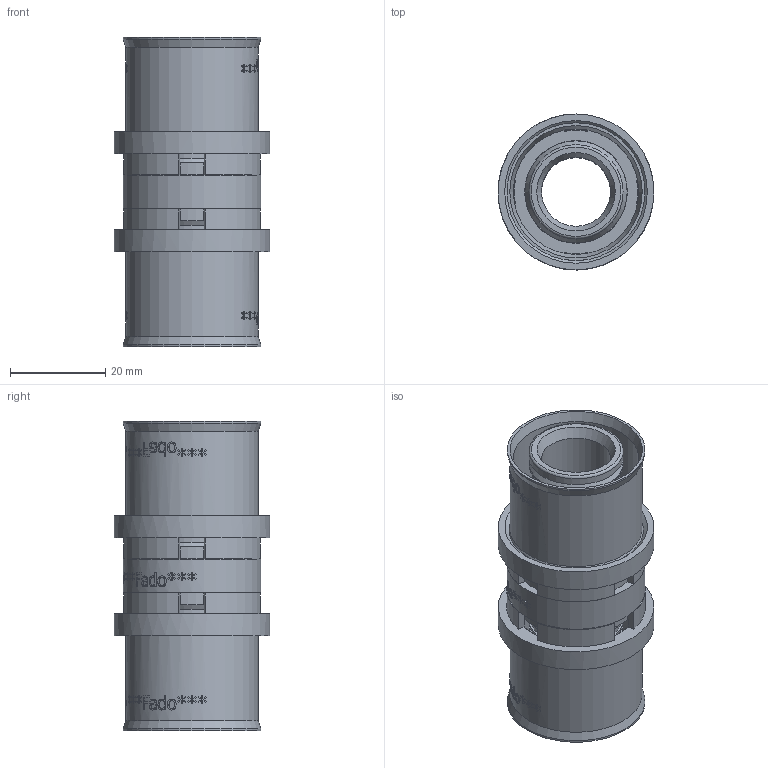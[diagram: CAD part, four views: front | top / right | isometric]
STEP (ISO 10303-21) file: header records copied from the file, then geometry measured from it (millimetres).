
FILE_DESCRIPTION(/* description */ (''),/* implementation_level */ '2;1');
FILE_NAME(/* name */ 'C:\Users\Doom\Desktop\Фадотех\Пресс\HDM06 26 Coupler 31.03.2020\HDM06 26 Coupler 31.03.2020.stp',/* time_stamp */ '2022-08-11T12:22:36+03:00',/* author */ ('Doom'),/* organization */ (''),/* preprocessor_version */ 'ST-DEVELOPER v18',/* originating_system */ 'Autodesk Inventor 2020',/* authorisation */ '');
FILE_SCHEMA (('AUTOMOTIVE_DESIGN { 1 0 10303 214 3 1 1 }'));
Products named in the file (7): HDM01 Coupler 31.03.2020; 16 Model 18.12.2019; 16 Model 18.12.2019_1; 16 Model 18.12.2019_2; 16 Model 18.12.2019_3; 26 LDPE Seats 27.02.2020_ЗЕРКАЛО; 26 SUS Ferrules 27.02.2020_ЗЕРКАЛО
Assembly tree (6 placements, depth 2):
  HDM01 Coupler 31.03.2020
    16 Model 18.12.2019
    16 Model 18.12.2019_1
    16 Model 18.12.2019_2
    16 Model 18.12.2019_3
    26 LDPE Seats 27.02.2020_ЗЕРКАЛО
    26 SUS Ferrules 27.02.2020_ЗЕРКАЛО
Bounding box: 32.8 x 32.8 x 65.1 mm (x, y, z)
Volume: 17233 mm3; surface area: 24999 mm2
Topology: 6 solids, 6 shells, 1695 faces, 4762 edges, 3204 vertices
Faces by surface type: bspline 1115, plane 359, cylinder 179, cone 32, torus 10
Full cylindrical faces by diameter (mm): 14.5 x1, 16.4 x1, 16.6 x4, 17.8 x3, 19.2 x1, 19.5 x1, 19.8 x16, 20.8 x4, 21.5 x2, 21.6 x2, 26.4 x4, 27.8 x2, 28.3 x2, 29 x5, 29.2 x2, 32.8 x2
Entity records: 75028 total; most frequent: CARTESIAN_POINT 37349, ORIENTED_EDGE 9524, EDGE_CURVE 4762, DIRECTION 4442, VERTEX_POINT 3204, B_SPLINE_CURVE_WITH_KNOTS 2230, EDGE_LOOP 1848, LINE 1808
